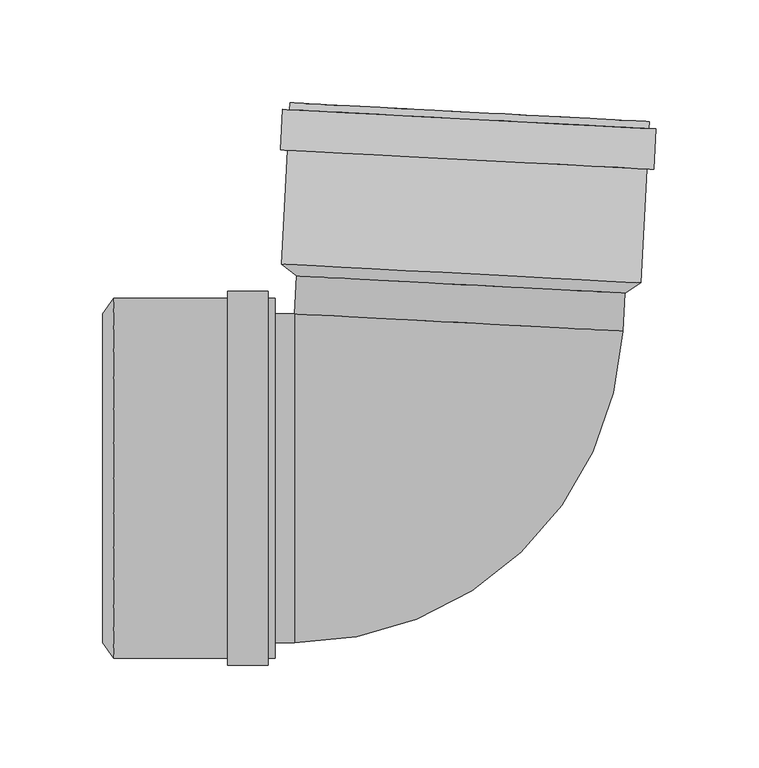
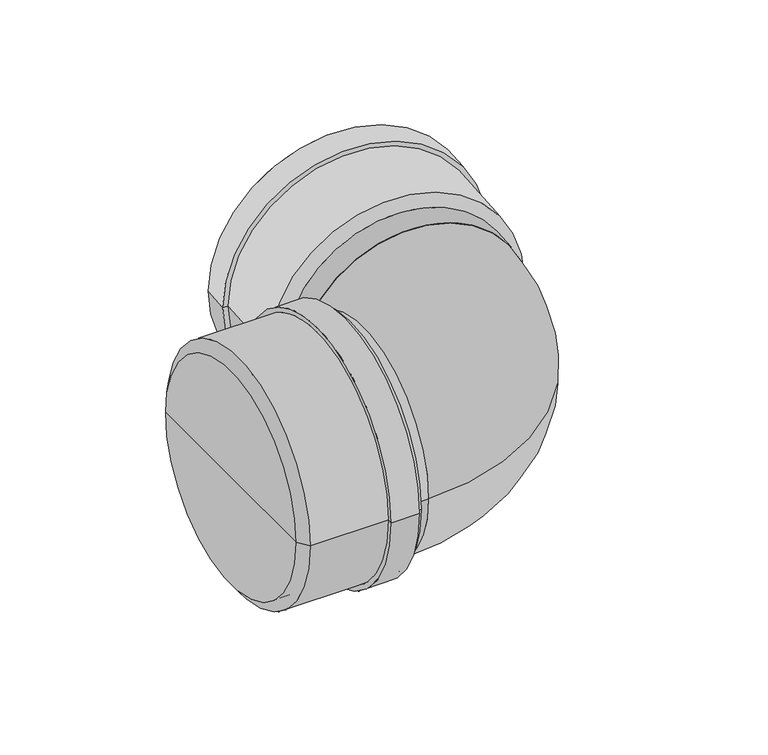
"""IFC4 building model written with IfcOpenShell, lengths in millimetres: pipe fitting geometry, pf_KGB : pf_KGB."""

from ifc_helpers import new_model, si_unit, point, frame, origin, origin_2d, place, context, project, spatial, polyline, circle_curve, ellipse_curve, trimmed, segment, composite_curve, outline, extrude, source, transform, mapped, element, save
from ifc_brep_helpers import plane_surface, cylinder_surface, revolved_surface, advanced_brep


def pipe_fitting_68c4766c(model_context):
    return source(origin(), model_context, "Body", "SolidModel", [
        advanced_brep(
        [(84.830877, 90.0837516, 0.0), (-74.9498485, 98.4575046, 0.0), (-82.2568188, 104.2478573, 0.0), (92.7030757, 95.0785978, 0.0), (4.9405143, 94.2706281, 0.0), (96.8166818, 173.5708792, 0.0), (-78.1432127, 182.7401388, 0.0), (-70.5536282, 182.3423855, 0.0), (89.2270974, 173.9686325, 0.0), (-78.3211549, 179.3447983, 0.0), (96.6387396, 170.1755388, 0.0), (-81.7164953, 179.5227406, 0.0), (100.03408, 169.9975966, 0.0), (-82.7475137, 159.8497388, 0.0), (99.0030617, 150.3245947, 0.0), (-79.3521732, 159.6717965, 0.0), (95.6077212, 150.502537, 0.0), (85.1134912, 95.4763511, 0.0), (-74.6672343, 103.8501041, 0.0), (5.2231284, 99.6632276, 0.0)],
        [
            (0, 1, circle_curve(frame((4.9405143, 94.2706281, 0.0), z_axis=(0.05233595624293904, 0.9986295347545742, 0.0), x_axis=(-0.9986295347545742, 0.05233595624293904, 0.0)), 80.0)),
            (1, 2),
            (2, 3, circle_curve(frame((5.2231284, 99.6632276, 0.0), z_axis=(-0.05233595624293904, -0.9986295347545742, 0.0), x_axis=(-0.9986295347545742, 0.05233595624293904, 0.0)), 87.6)),
            (3, 0),
            (1, 0, circle_curve(frame((4.9405143, 94.2706281, 0.0), z_axis=(0.05233595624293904, 0.9986295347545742, 0.0), x_axis=(-0.9986295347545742, 0.05233595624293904, 0.0)), 80.0)),
            (3, 2, circle_curve(frame((5.2231284, 99.6632276, 0.0), z_axis=(-0.05233595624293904, -0.9986295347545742, 0.0), x_axis=(-0.9986295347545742, 0.05233595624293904, 0.0)), 87.6)),
            (4, 1),
            (0, 4),
            (5, 6, circle_curve(frame((9.3367346, 178.155509, 0.0), z_axis=(0.05233595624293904, 0.9986295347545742, 0.0), x_axis=(-0.9986295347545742, 0.05233595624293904, 0.0)), 87.6)),
            (6, 7),
            (7, 8, circle_curve(frame((9.3367346, 178.155509, 0.0), z_axis=(-0.05233595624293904, -0.9986295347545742, 0.0), x_axis=(-0.9986295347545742, 0.05233595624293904, 0.0)), 80.0)),
            (8, 5),
            (9, 10, circle_curve(frame((9.1587923, 174.7601686, 0.0), z_axis=(0.05233595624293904, 0.9986295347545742, 0.0), x_axis=(-0.9986295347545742, 0.05233595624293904, 0.0)), 87.6)),
            (10, 5),
            (5, 6, circle_curve(frame((9.3367346, 178.155509, 0.0), z_axis=(-0.05233595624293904, -0.9986295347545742, 0.0), x_axis=(-0.9986295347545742, 0.05233595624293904, 0.0)), 87.6)),
            (6, 9),
            (11, 12, circle_curve(frame((9.1587923, 174.7601686, 0.0), z_axis=(0.05233595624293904, 0.9986295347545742, 0.0), x_axis=(-0.9986295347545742, 0.05233595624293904, 0.0)), 91.0)),
            (12, 10),
            (9, 11),
            (13, 14, circle_curve(frame((8.127774, 155.0871667, 0.0), z_axis=(0.05233595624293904, 0.9986295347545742, 0.0), x_axis=(-0.9986295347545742, 0.05233595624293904, 0.0)), 91.0)),
            (14, 12),
            (11, 13),
            (15, 16, circle_curve(frame((8.127774, 155.0871667, 0.0), z_axis=(0.05233595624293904, 0.9986295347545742, 0.0), x_axis=(-0.9986295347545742, 0.05233595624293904, 0.0)), 87.6)),
            (16, 14),
            (13, 15),
            (8, 7, circle_curve(frame((9.3367346, 178.155509, 0.0), z_axis=(-0.05233595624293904, -0.9986295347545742, 0.0), x_axis=(-0.9986295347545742, 0.05233595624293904, 0.0)), 80.0)),
            (10, 9, circle_curve(frame((9.1587923, 174.7601686, 0.0), z_axis=(0.05233595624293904, 0.9986295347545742, 0.0), x_axis=(-0.9986295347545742, 0.05233595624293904, 0.0)), 87.6)),
            (12, 11, circle_curve(frame((9.1587923, 174.7601686, 0.0), z_axis=(0.05233595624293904, 0.9986295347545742, 0.0), x_axis=(-0.9986295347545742, 0.05233595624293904, 0.0)), 91.0)),
            (14, 13, circle_curve(frame((8.127774, 155.0871667, 0.0), z_axis=(0.05233595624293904, 0.9986295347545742, 0.0), x_axis=(-0.9986295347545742, 0.05233595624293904, 0.0)), 91.0)),
            (16, 15, circle_curve(frame((8.127774, 155.0871667, 0.0), z_axis=(0.05233595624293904, 0.9986295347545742, 0.0), x_axis=(-0.9986295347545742, 0.05233595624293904, 0.0)), 87.6)),
            (2, 15),
            (16, 3),
            (17, 18, circle_curve(frame((5.2231284, 99.6632276, 0.0), z_axis=(0.05233595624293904, 0.9986295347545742, 0.0), x_axis=(-0.9986295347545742, 0.05233595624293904, 0.0)), 80.0)),
            (18, 19),
            (19, 17),
            (18, 17, circle_curve(frame((5.2231284, 99.6632276, 0.0), z_axis=(0.05233595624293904, 0.9986295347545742, 0.0), x_axis=(-0.9986295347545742, 0.05233595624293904, 0.0)), 80.0)),
            (7, 18),
            (17, 8),
        ],
        [
            revolved_surface(polyline([(-82.2568188, 104.2478573, 0.0), (-74.9498485, 98.4575046, 0.0)]), (4.9405143, 94.2706281, 0.0), (-0.05233595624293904, -0.9986295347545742, 0.0)),
            plane_surface(frame((4.9405143, 94.2706281, 0.0), z_axis=(-0.05233595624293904, -0.9986295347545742, 0.0), x_axis=(-0.9986295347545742, 0.05233595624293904, 0.0))),
            plane_surface(frame((9.3367346, 178.155509, 0.0), z_axis=(0.05233595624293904, 0.9986295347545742, 0.0), x_axis=(-0.9986295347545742, 0.05233595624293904, 0.0))),
            cylinder_surface(frame((4.9405143, 94.2706281, 0.0), z_axis=(-0.05233595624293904, -0.9986295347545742, 0.0), x_axis=(-0.9986295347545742, 0.05233595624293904, 0.0)), 87.6),
            plane_surface(frame((9.1587923, 174.7601686, 0.0), z_axis=(0.05233595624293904, 0.9986295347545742, 0.0), x_axis=(-0.9986295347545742, 0.05233595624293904, 0.0))),
            cylinder_surface(frame((4.9405143, 94.2706281, 0.0), z_axis=(-0.05233595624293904, -0.9986295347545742, 0.0), x_axis=(-0.9986295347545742, 0.05233595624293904, 0.0)), 91.0),
            plane_surface(frame((8.127774, 155.0871667, 0.0), z_axis=(-0.05233595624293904, -0.9986295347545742, 0.0), x_axis=(-0.9986295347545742, 0.05233595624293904, 0.0))),
            plane_surface(frame((5.2231284, 99.6632276, 0.0), z_axis=(0.05233595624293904, 0.9986295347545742, 0.0), x_axis=(-0.9986295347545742, 0.05233595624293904, 0.0))),
            revolved_surface(polyline([(-74.66723431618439, 103.85010409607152, 0.0), (-70.55362815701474, 182.34238549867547, 0.0)]), (4.9405143, 94.2706281, 0.0), (-0.05233595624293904, -0.9986295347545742, 0.0)),
        ],
        [
            (0, [[1, 2, 3, 4]]),
            (0, [[5, -4, 6, -2]]),
            (1, [[7, -1, 8]]),
            (1, [[-8, -5, -7]]),
            (2, [[9, 10, 11, 12]]),
            (3, [[13, 14, 15, 16]]),
            (4, [[17, 18, -13, 19]]),
            (5, [[20, 21, -17, 22]]),
            (6, [[23, 24, -20, 25]]),
            (2, [[-15, -12, 26, -10]]),
            (3, [[27, -16, -9, -14]]),
            (4, [[28, -19, -27, -18]]),
            (5, [[29, -22, -28, -21]]),
            (6, [[30, -25, -29, -24]]),
            (3, [[-3, 31, -30, 32]]),
            (3, [[-6, -32, -23, -31]]),
            (7, [[33, 34, 35]]),
            (7, [[36, -35, -34]]),
            (8, [[-11, 37, -33, 38]]),
            (8, [[-26, -38, -36, -37]]),
        ],
    ),
        advanced_brep(
        [(-169.4, -80.0, 0.0), (-169.4, 80.0, 0.0), (-164.0, 87.6, 0.0), (-164.0, -87.6, 0.0), (-169.4, 0.0, 0.0), (-85.4, -87.6, 0.0), (-85.4, 87.6, 0.0), (-85.4, 80.0, 0.0), (-85.4, -80.0, 0.0), (-88.8, 87.6, 0.0), (-88.8, -87.6, 0.0), (-88.8, 91.0, 0.0), (-88.8, -91.0, 0.0), (-108.5, 91.0, 0.0), (-108.5, -91.0, 0.0), (-108.5, 87.6, 0.0), (-108.5, -87.6, 0.0), (-164.0, -80.0, 0.0), (-164.0, 80.0, 0.0), (-164.0, 0.0, 0.0)],
        [
            (0, 1, circle_curve(frame((-169.4, 0.0, 0.0), z_axis=(1.0, 0.0, 0.0), x_axis=(0.0, 1.0, 0.0)), 80.0)),
            (1, 2),
            (2, 3, circle_curve(frame((-164.0, 0.0, 0.0), z_axis=(-1.0, 0.0, 0.0), x_axis=(0.0, 1.0, 0.0)), 87.6)),
            (3, 0),
            (1, 0, circle_curve(frame((-169.4, 0.0, 0.0), z_axis=(1.0, 0.0, 0.0), x_axis=(0.0, 1.0, 0.0)), 80.0)),
            (3, 2, circle_curve(frame((-164.0, 0.0, 0.0), z_axis=(-1.0, 0.0, 0.0), x_axis=(0.0, 1.0, 0.0)), 87.6)),
            (4, 1),
            (0, 4),
            (5, 6, circle_curve(frame((-85.4, 0.0, 0.0), z_axis=(1.0, 0.0, 0.0), x_axis=(0.0, 1.0, 0.0)), 87.6)),
            (6, 7),
            (7, 8, circle_curve(frame((-85.4, 0.0, 0.0), z_axis=(-1.0, 0.0, 0.0), x_axis=(0.0, 1.0, 0.0)), 80.0)),
            (8, 5),
            (9, 10, circle_curve(frame((-88.8, 0.0, 0.0), z_axis=(1.0, 0.0, 0.0), x_axis=(0.0, 1.0, 0.0)), 87.6)),
            (10, 5),
            (5, 6, circle_curve(frame((-85.4, 0.0, 0.0), z_axis=(-1.0, 0.0, 0.0), x_axis=(0.0, 1.0, 0.0)), 87.6)),
            (6, 9),
            (11, 12, circle_curve(frame((-88.8, 0.0, 0.0), z_axis=(1.0, 0.0, 0.0), x_axis=(0.0, 1.0, 0.0)), 91.0)),
            (12, 10),
            (9, 11),
            (13, 14, circle_curve(frame((-108.5, 0.0, 0.0), z_axis=(1.0, 0.0, 0.0), x_axis=(0.0, 1.0, 0.0)), 91.0)),
            (14, 12),
            (11, 13),
            (15, 16, circle_curve(frame((-108.5, 0.0, 0.0), z_axis=(1.0, 0.0, 0.0), x_axis=(0.0, 1.0, 0.0)), 87.6)),
            (16, 14),
            (13, 15),
            (8, 7, circle_curve(frame((-85.4, 0.0, 0.0), z_axis=(-1.0, 0.0, 0.0), x_axis=(0.0, 1.0, 0.0)), 80.0)),
            (10, 9, circle_curve(frame((-88.8, 0.0, 0.0), z_axis=(1.0, 0.0, 0.0), x_axis=(0.0, 1.0, 0.0)), 87.6)),
            (12, 11, circle_curve(frame((-88.8, 0.0, 0.0), z_axis=(1.0, 0.0, 0.0), x_axis=(0.0, 1.0, 0.0)), 91.0)),
            (14, 13, circle_curve(frame((-108.5, 0.0, 0.0), z_axis=(1.0, 0.0, 0.0), x_axis=(0.0, 1.0, 0.0)), 91.0)),
            (16, 15, circle_curve(frame((-108.5, 0.0, 0.0), z_axis=(1.0, 0.0, 0.0), x_axis=(0.0, 1.0, 0.0)), 87.6)),
            (2, 15),
            (16, 3),
            (17, 18, circle_curve(frame((-164.0, 0.0, 0.0), z_axis=(1.0, 0.0, 0.0), x_axis=(0.0, 1.0, 0.0)), 80.0)),
            (18, 19),
            (19, 17),
            (18, 17, circle_curve(frame((-164.0, 0.0, 0.0), z_axis=(1.0, 0.0, 0.0), x_axis=(0.0, 1.0, 0.0)), 80.0)),
            (7, 18),
            (17, 8),
        ],
        [
            revolved_surface(polyline([(-164.0, 87.6, 0.0), (-169.4, 80.0, 0.0)]), (-169.4, 0.0, 0.0), (-1.0, 0.0, 0.0)),
            plane_surface(frame((-169.4, 0.0, 0.0), z_axis=(-1.0, 0.0, 0.0), x_axis=(0.0, 1.0, 0.0))),
            plane_surface(frame((-85.4, 0.0, 0.0), z_axis=(1.0, 0.0, 0.0), x_axis=(0.0, 1.0, 0.0))),
            cylinder_surface(frame((-169.4, 0.0, 0.0), z_axis=(-1.0, 0.0, 0.0), x_axis=(0.0, 1.0, 0.0)), 87.6),
            plane_surface(frame((-88.8, 0.0, 0.0), z_axis=(1.0, 0.0, 0.0), x_axis=(0.0, 1.0, 0.0))),
            cylinder_surface(frame((-169.4, 0.0, 0.0), z_axis=(-1.0, 0.0, 0.0), x_axis=(0.0, 1.0, 0.0)), 91.0),
            plane_surface(frame((-108.5, 0.0, 0.0), z_axis=(-1.0, 0.0, 0.0), x_axis=(0.0, 1.0, 0.0))),
            plane_surface(frame((-164.0, 0.0, 0.0), z_axis=(1.0, 0.0, 0.0), x_axis=(0.0, 1.0, 0.0))),
            revolved_surface(polyline([(-164.0, 80.0, 0.0), (-85.4, 80.0, 0.0)]), (-169.4, 0.0, 0.0), (-1.0, 0.0, 0.0)),
        ],
        [
            (0, [[1, 2, 3, 4]]),
            (0, [[5, -4, 6, -2]]),
            (1, [[7, -1, 8]]),
            (1, [[-8, -5, -7]]),
            (2, [[9, 10, 11, 12]]),
            (3, [[13, 14, 15, 16]]),
            (4, [[17, 18, -13, 19]]),
            (5, [[20, 21, -17, 22]]),
            (6, [[23, 24, -20, 25]]),
            (2, [[-15, -12, 26, -10]]),
            (3, [[27, -16, -9, -14]]),
            (4, [[28, -19, -27, -18]]),
            (5, [[29, -22, -28, -21]]),
            (6, [[30, -25, -29, -24]]),
            (3, [[-3, 31, -30, 32]]),
            (3, [[-6, -32, -23, -31]]),
            (7, [[33, 34, 35]]),
            (7, [[36, -35, -34]]),
            (8, [[-11, 37, -33, 38]]),
            (8, [[-26, -38, -36, -37]]),
        ],
    ),
        extrude(outline(composite_curve([segment(trimmed(circle_curve(origin_2d(), 80.0), [point((0.0, -79.9999999))], [point((0.0, 80.0))], False, "CARTESIAN"), True, "CONTINUOUS"), segment(trimmed(circle_curve(origin_2d(), 80.0), [point((0.0, 80.0))], [point((0.0, -79.9999999))], False, "CARTESIAN"), True, "CONTINUOUS")], self_intersect=False)), frame((3.9731974, 75.8131235, 0.0), z_axis=(0.052335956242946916, 0.9986295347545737, 0.0), x_axis=(0.0, 0.0, 1.0)), (0.0, 0.0, 1.0), 18.4828347),
        extrude(outline(composite_curve([segment(trimmed(circle_curve(origin_2d(), 80.0), [point((-80.0, 0.0))], [point((80.0, 0.0))], False, "CARTESIAN"), True, "CONTINUOUS"), segment(trimmed(circle_curve(origin_2d(), 80.0), [point((80.0, 0.0))], [point((-80.0, 0.0))], False, "CARTESIAN"), True, "CONTINUOUS")], self_intersect=False)), frame((-164.0, 0.0, 0.0), z_axis=(1.0, 0.0, 0.0), x_axis=(0.0, 1.0, 0.0)), (0.0, 0.0, 1.0), 88.0828347),
        advanced_brep(
        [(-75.9171653, -80.0, 0.0), (-75.9171653, 80.0, 0.0), (83.8635602, 71.626247, 0.0)],
        [
            (0, 1, circle_curve(frame((-75.9171653, 0.0, 0.0), z_axis=(-1.0, 0.0, 0.0), x_axis=(0.0, 1.0, 0.0)), 80.0)),
            (1, 0, circle_curve(frame((-75.9171653, 0.0, 0.0), z_axis=(-1.0, 0.0, 0.0), x_axis=(0.0, 1.0, 0.0)), 80.0)),
            (2, 1, circle_curve(frame((3.9731974, 75.8131235, 0.0), z_axis=(0.05233595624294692, 0.9986295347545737, 0.0), x_axis=(-0.9986295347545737, 0.05233595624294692, 0.0)), 80.0)),
            (1, 2, circle_curve(frame((3.9731974, 75.8131235, 0.0), z_axis=(0.05233595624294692, 0.9986295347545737, 0.0), x_axis=(-0.9986295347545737, 0.05233595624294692, 0.0)), 80.0)),
            (2, 0, circle_curve(frame((-75.9171653, 80.0, 0.0), z_axis=(0.0, 0.0, -1.0), x_axis=(0.0, -1.0, 0.0)), 160.0)),
        ],
        [
            plane_surface(frame((-75.9171653, 80.0, -14.8), z_axis=(-1.0, 0.0, 0.0), x_axis=(0.0, -1.0, 0.0))),
            plane_surface(frame((-75.9171653, 80.0, -14.8), z_axis=(0.052335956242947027, 0.9986295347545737, 0.0), x_axis=(0.9986295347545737, -0.052335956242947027, 0.0))),
            revolved_surface(trimmed(ellipse_curve(frame((-75.9171653, 0.0, 0.0), z_axis=(1.0, 0.0, 0.0), x_axis=(0.0, 1.0, 0.0)), 80.0, 80.0), [point((-75.9171653, -80.0, 0.0))], [point((-75.9171653, 80.0, 0.0))], True, "CARTESIAN"), (-75.9171653, 80.0, -14.8), (0.0, 0.0, -1.0)),
            revolved_surface(trimmed(ellipse_curve(frame((-75.9171653, 0.0, 0.0), z_axis=(1.0, 0.0, 0.0), x_axis=(0.0, 1.0, 0.0)), 80.0, 80.0), [point((-75.9171653, 80.0, 0.0))], [point((-75.9171653, -80.0, 0.0))], True, "CARTESIAN"), (-75.9171653, 80.0, -14.8), (0.0, 0.0, -1.0)),
        ],
        [
            (0, [[1, 2]]),
            (1, [[3, 4]]),
            (2, [[5, -2, -3]]),
            (3, [[-1, -5, -4]]),
        ],
    ),
    ])


if __name__ == "__main__":
    model = new_model("IFC4")
    model_context = context("Model", 3, world=origin())
    ifc_project = project(units=[si_unit("LENGTHUNIT", "METRE", prefix="MILLI")], contexts=[model_context])
    site = spatial("IfcSite", under=ifc_project)
    building = spatial("IfcBuilding", under=site)
    placement = place(None, origin())
    pipe_fitting_shape = pipe_fitting_68c4766c(model_context)
    element("IfcPipeFitting", 1, ObjectType="pf_KGB : pf_KGB", at=placement, inside=building, context=model_context, shape_type="MappedRepresentation", body=[
        mapped(pipe_fitting_shape, transform((0.0, 0.0, 0.0), x_axis=(1.0, 0.0, 0.0), y_axis=(0.0, 1.0, 0.0), z_axis=(0.0, 0.0, 1.0))),
    ])
    save(model, "model.ifc")
